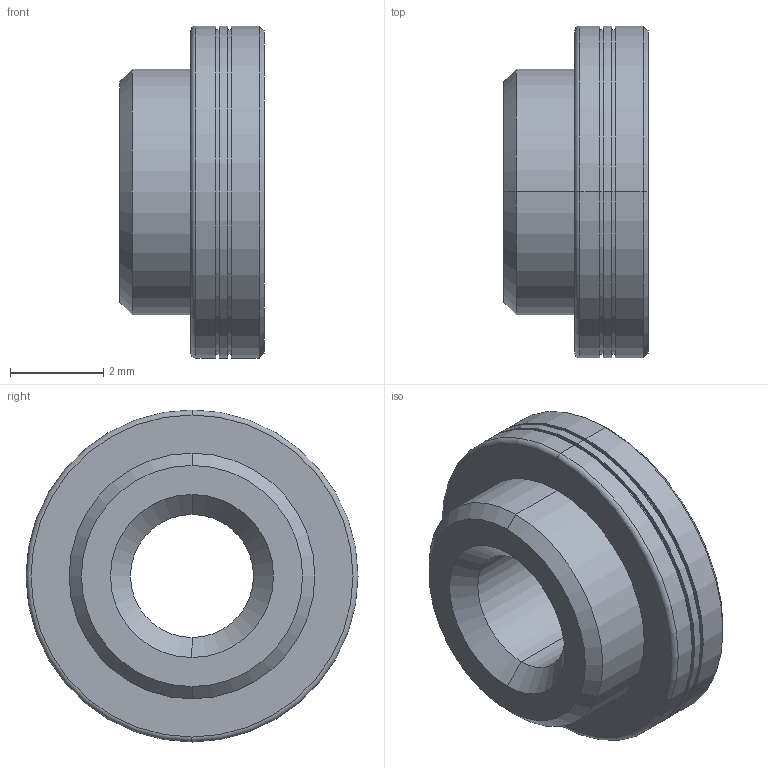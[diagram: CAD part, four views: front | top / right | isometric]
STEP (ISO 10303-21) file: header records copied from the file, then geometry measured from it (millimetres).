
FILE_DESCRIPTION(('starvars output'),'1');
FILE_NAME('cv20240226113201000017419.stp','11:32:01 2024/02/26',('Thomas Industrial Network Germany GmbH'),(' '),'Spatial InterOp 3D',' ',' ');
FILE_SCHEMA(('AP242_MANAGED_MODEL_BASED_3D_ENGINEERING_MIM_LF {1 0 10303 442 2 1 4}'));
Length unit declared in the file: millimetre
Products named in the file (1): 1
Bounding box: 3.1 x 7.14 x 7.14 mm (x, y, z)
Volume: 76.7 mm3; surface area: 155.2 mm2
Topology: 1 solids, 7 shells, 153 faces, 392 edges, 258 vertices
Faces by surface type: plane 125, cylinder 18, cone 8, torus 2
Entity records: 5830 total; most frequent: CARTESIAN_POINT 804, ORIENTED_EDGE 784, DIRECTION 748, EDGE_CURVE 392, LINE 344, VECTOR 344, VERTEX_POINT 258, AXIS2_PLACEMENT_3D 202
